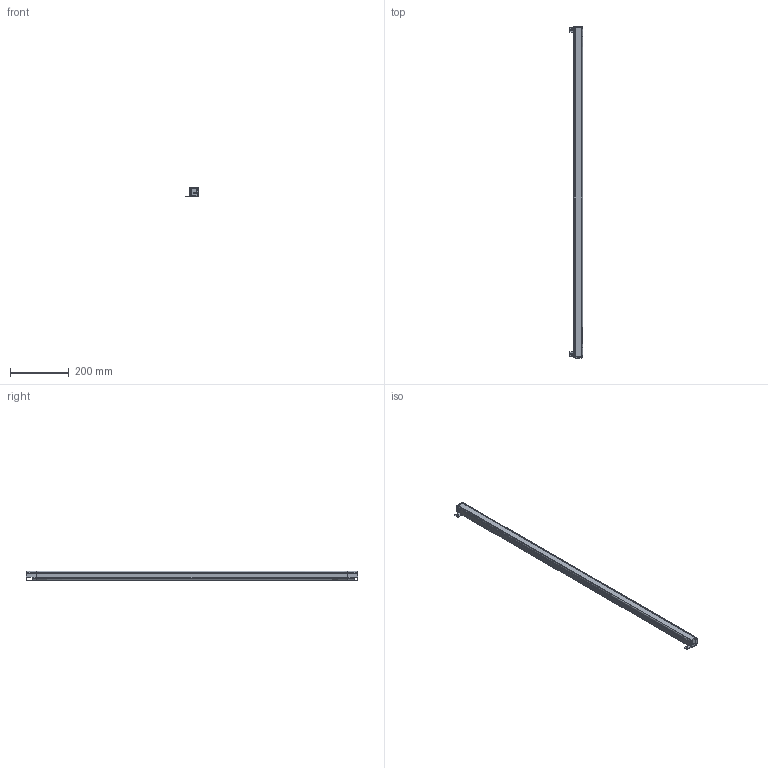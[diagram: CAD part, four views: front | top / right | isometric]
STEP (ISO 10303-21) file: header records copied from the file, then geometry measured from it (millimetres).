
FILE_DESCRIPTION(/* description */ (''),/* implementation_level */ '2;1');
FILE_NAME(/* name */ '2840(30X30).stp',/* time_stamp */ '2020-07-10T20:23:05+08:00',/* author */ (''),/* organization */ (''),/* preprocessor_version */ 'ST-DEVELOPER v16',/* originating_system */ 'SIEMENS PLM Software NX 10.0',/* authorisation */ '');
FILE_SCHEMA (('AP203_CONFIGURATION_CONTROLLED_3D_DESIGN_OF_MECHANICAL_PARTS_AND_ASSEMBLIES_MIM_LF { 1 0 10303 403 2 1 2}'));
Length unit declared in the file: millimetre
Products named in the file (1): Admi58A03253m5pn
Bounding box: 44.89 x 1128.4 x 31.39 mm (x, y, z)
Volume: 349171.2 mm3; surface area: 371198.1 mm2
Topology: 6 solids, 6 shells, 441 faces, 1311 edges, 871 vertices
Faces by surface type: plane 256, cylinder 132, cone 32, bspline 14, extrusion 7
Full cylindrical faces by diameter (mm): 1.5 x2, 3.2 x8, 3.5 x8
Entity records: 15674 total; most frequent: CARTESIAN_POINT 3867, ORIENTED_EDGE 2528, DIRECTION 2314, EDGE_CURVE 1264, VECTOR 856, VERTEX_POINT 855, LINE 849, AXIS2_PLACEMENT_3D 729
